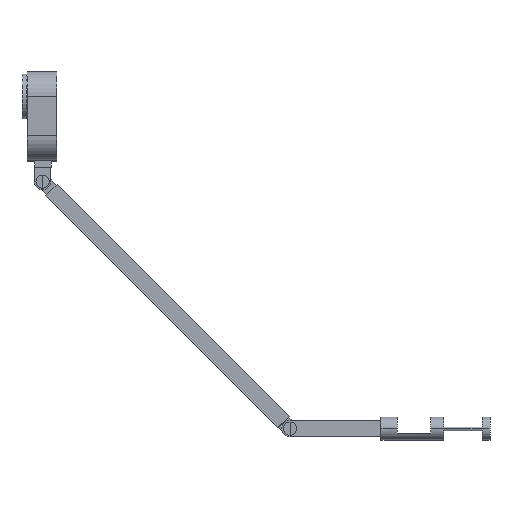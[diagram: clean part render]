
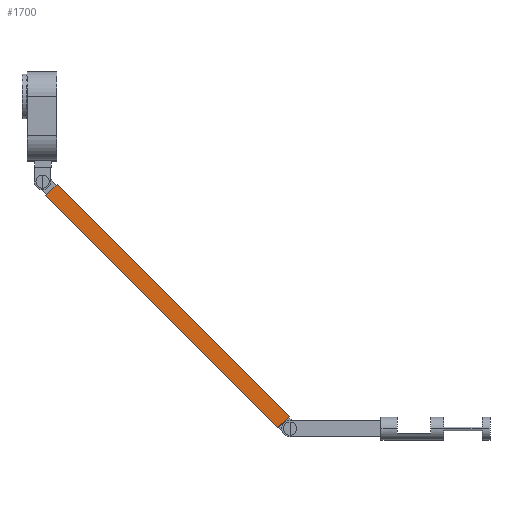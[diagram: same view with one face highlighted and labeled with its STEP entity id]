
A CAD part, left-side view. The second image highlights one B-rep face of the part: STEP entity #1700.
In plain terms, the highlighted planar face has unit normal (-1, 0, 0).
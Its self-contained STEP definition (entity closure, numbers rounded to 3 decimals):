
#214=FACE_OUTER_BOUND('',#331,.T.);
#331=EDGE_LOOP('',(#1159,#1160,#1161,#1162));
#447=LINE('',#2631,#603);
#451=LINE('',#2638,#607);
#454=LINE('',#2644,#610);
#456=LINE('',#2647,#612);
#603=VECTOR('',#2047,304.8);
#607=VECTOR('',#2053,304.8);
#610=VECTOR('',#2058,304.8);
#612=VECTOR('',#2062,304.8);
#759=VERTEX_POINT('',#2628);
#760=VERTEX_POINT('',#2630);
#762=VERTEX_POINT('',#2636);
#764=VERTEX_POINT('',#2642);
#907=EDGE_CURVE('',#760,#759,#447,.T.);
#911=EDGE_CURVE('',#759,#762,#451,.T.);
#914=EDGE_CURVE('',#762,#764,#454,.T.);
#916=EDGE_CURVE('',#764,#760,#456,.T.);
#1159=ORIENTED_EDGE('',*,*,#907,.T.);
#1160=ORIENTED_EDGE('',*,*,#911,.T.);
#1161=ORIENTED_EDGE('',*,*,#914,.T.);
#1162=ORIENTED_EDGE('',*,*,#916,.T.);
#1623=PLANE('',#1833);
#1700=ADVANCED_FACE('',(#214),#1623,.T.);
#1833=AXIS2_PLACEMENT_3D('',#2648,#2063,#2064);
#2047=DIRECTION('',(0.,0.707,0.707));
#2053=DIRECTION('',(0.,0.707,-0.707));
#2058=DIRECTION('',(0.,-0.707,-0.707));
#2062=DIRECTION('',(0.,-0.707,0.707));
#2063=DIRECTION('center_axis',(-1.,0.,0.));
#2064=DIRECTION('ref_axis',(0.,-0.707,0.707));
#2628=CARTESIAN_POINT('',(-7.5,534.919,397.251));
#2630=CARTESIAN_POINT('',(-7.5,181.365,43.697));
#2631=CARTESIAN_POINT('',(-7.5,181.365,43.697));
#2636=CARTESIAN_POINT('',(-7.5,552.596,379.573));
#2638=CARTESIAN_POINT('',(-7.5,534.919,397.251));
#2642=CARTESIAN_POINT('',(-7.5,199.043,26.02));
#2644=CARTESIAN_POINT('',(-7.5,552.596,379.573));
#2647=CARTESIAN_POINT('',(-7.5,199.043,26.02));
#2648=CARTESIAN_POINT('Origin',(-7.5,199.043,26.02));
